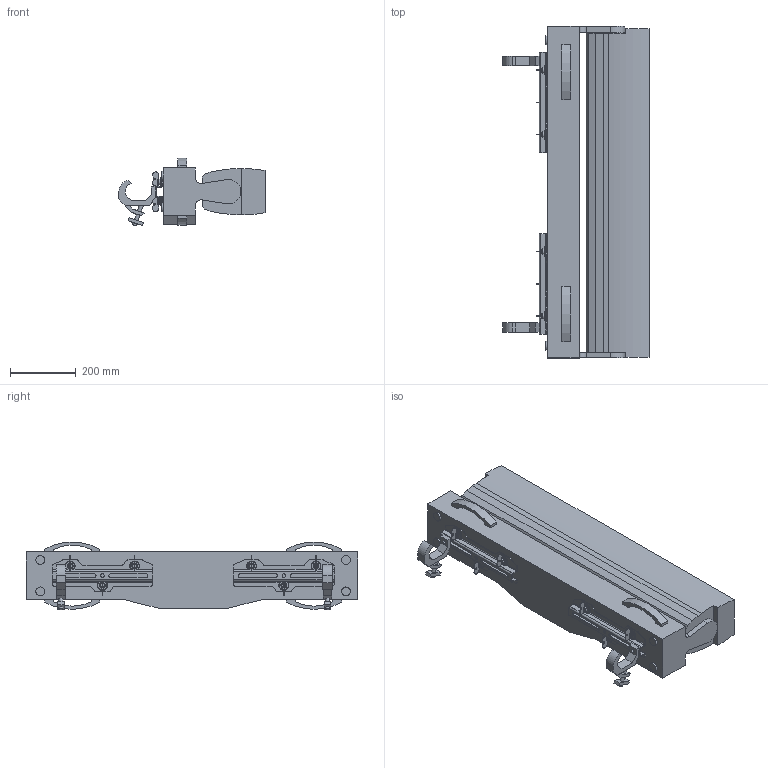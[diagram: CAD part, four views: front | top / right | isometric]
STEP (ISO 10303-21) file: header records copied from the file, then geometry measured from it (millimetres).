
FILE_DESCRIPTION(/* description */ ('Unknown'),/* implementation_level */ '2;1');
FILE_NAME(/* name */ '3D_iTETRA2',/* time_stamp */ '2023-04-05T10:20:19+02:00',/* author */ ('Unknown'),/* organization */ ('Unknown'),/* preprocessor_version */ 'ST-DEVELOPER v18.102',/* originating_system */ 'Solid Edge',/* authorisation */ 'Unknown');
FILE_SCHEMA (('AUTOMOTIVE_DESIGN {1 0 10303 214 3 1 1}'));
Length unit declared in the file: millimetre
Products named in the file (12): 3D_iTETRA2; iTETRA_Base; iTETRA_Head; 99016241-01 Kotevní závìs s CAMLOC 9 - TT; 11017080-01 Z嫛鮀 TT; 17630135 Talíøová pružina 28x10,2x0,8; 17030152 Kolík 4x14 DIN1475; 18060291 Šroub CAMLOC 9 s køidélkem - jednostranný; 18060048 Šroub CAMLOC 9; 11017078 Køidelko CAMLOC 9 - jednostranné; 11017079 Podložení pružin Camlock; Clamp Doughty Slimline QT
Assembly tree (27 placements, depth 4):
  3D_iTETRA2
    iTETRA_Base
    iTETRA_Head
    99016241-01 Kotevní závìs s CAMLOC 9 - TT  x2
      11017080-01 Z嫛鮀 TT
      17630135 Talíøová pružina 28x10,2x0,8
      17030152 Kolík 4x14 DIN1475
      18060291 Šroub CAMLOC 9 s køidélkem - jednostranný
        18060048 Šroub CAMLOC 9
        11017078 Køidelko CAMLOC 9 - jednostranné
      11017079 Podložení pružin Camlock
    Clamp Doughty Slimline QT  x2
Bounding box: 444.9 x 1010 x 206.51 mm (x, y, z)
Volume: 41396970 mm3; surface area: 1603516.6 mm2
Topology: 48 solids, 48 shells, 709 faces, 1773 edges, 1171 vertices
Faces by surface type: plane 371, cylinder 254, cone 66, torus 18
Full cylindrical faces by diameter (mm): 4 x12, 4.2 x6, 8.696 x3, 8.964 x2, 9.464 x1, 9.5 x6, 10.2 x18, 11 x14, 12 x8, 17.5 x6, 26.107 x1, 27.261 x4, 28 x18, 30 x6, 37 x1
Entity records: 8521 total; most frequent: CARTESIAN_POINT 1456, DIRECTION 1438, ORIENTED_EDGE 1322, EDGE_CURVE 661, AXIS2_PLACEMENT_3D 493, VERTEX_POINT 457, LINE 452, VECTOR 452
